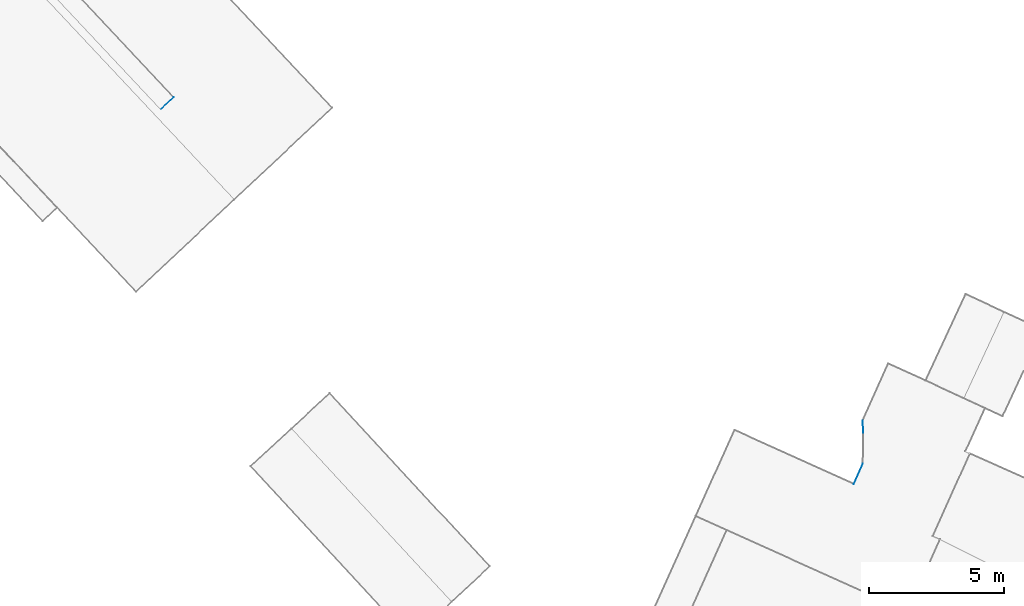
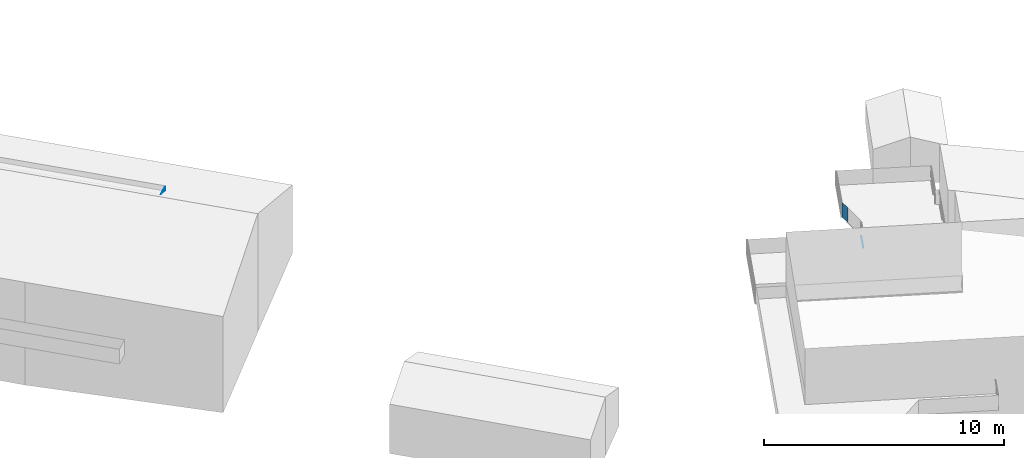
# Not in any storey, part 117 of 136: 3 walls.
"""IFC4 building model written with IfcOpenShell, lengths in metres."""

from ifc_helpers import new_model, entity, si_unit, converted_unit, origin, place, context, subcontext, project, spatial, face_set, surface_model, element, save


model = new_model("IFC4")

# Units and contexts
model_context = context("Model", 3, precision=1e-05, world=origin())
body_context = subcontext(model_context, "Body", "Model", "MODEL_VIEW")
ifc_project = project(units=[converted_unit("PLANEANGLEUNIT", "DEGREE", entity("IfcRatioMeasure", 0.0174532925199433), si_unit("PLANEANGLEUNIT", "RADIAN"), dimensions=[0, 0, 0, 0, 0, 0, 0]), si_unit("AREAUNIT", "SQUARE_METRE"), si_unit("LENGTHUNIT", "METRE")], contexts=[model_context])

# Site, building
site_placement = place(None, origin())
site = spatial("IfcSite", under=ifc_project, at=site_placement, Name="_site")
building_1_placement = place(site_placement, origin())
building_1 = spatial("IfcBuilding", under=site, at=building_1_placement, Name="_building")

# Walls
wall_1_placement = place(building_1_placement, origin())
element("IfcWall", 1, at=wall_1_placement, inside=building_1, Name="Wall", PredefinedType="NOTDEFINED", context=body_context, shape_type="SurfaceModel", body=[
    surface_model("IfcFaceBasedSurfaceModel", [(115.9, 101.28, 43.29), (116.24, 102.03, 43.29), (116.24, 102.03, 43.284), (115.9, 101.28, 43.282)], [face_set([[[0, 1, 2, 3]]])]),
])
wall_2_placement = place(building_1_placement, origin())
element("IfcWall", 2, at=wall_2_placement, inside=building_1, Name="Wall", PredefinedType="NOTDEFINED", context=body_context, shape_type="SurfaceModel", body=[
    surface_model("IfcFaceBasedSurfaceModel", [(116.26, 103.19, 43.29), (116.23, 103.64, 43.29), (116.23, 103.64, 44.04), (116.26, 103.19, 44.04)], [face_set([[[0, 1, 2, 3]]])]),
])

# Building
building_2_placement = place(site_placement, origin())
building_2 = spatial("IfcBuilding", under=site, at=building_2_placement, Name="_building")

# Wall
wall_3_placement = place(building_2_placement, origin())
element("IfcWall", 3, at=wall_3_placement, inside=building_2, Name="Wall", PredefinedType="NOTDEFINED", context=body_context, shape_type="SurfaceModel", body=[
    surface_model("IfcFaceBasedSurfaceModel", [(90.63, 115.65, 46.56), (90.14, 115.2, 46.55), (90.63, 115.65, 46.298)], [face_set([[[0, 1, 2]]])]),
])

save(model, "model.ifc")
